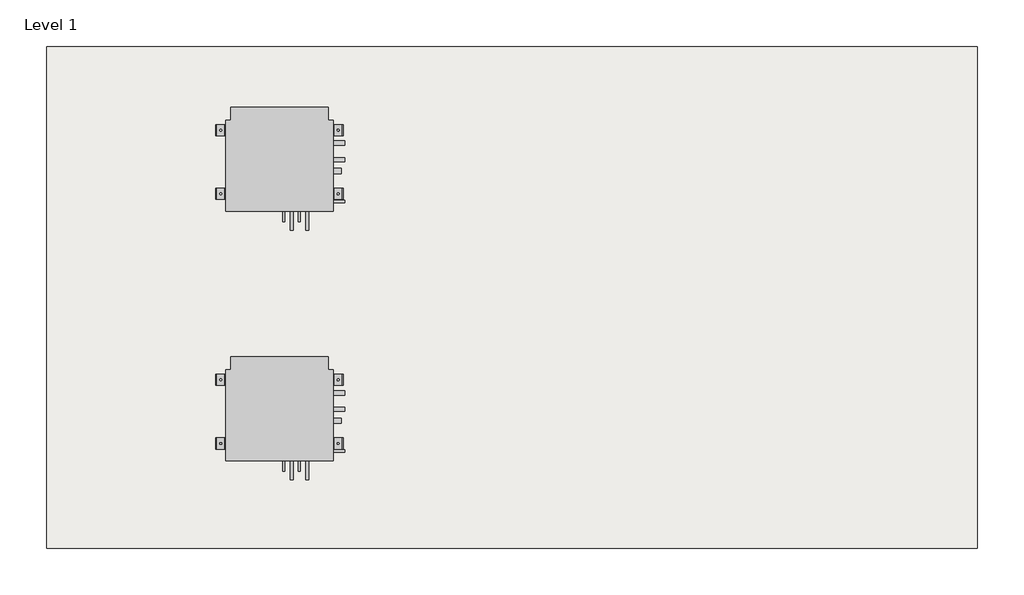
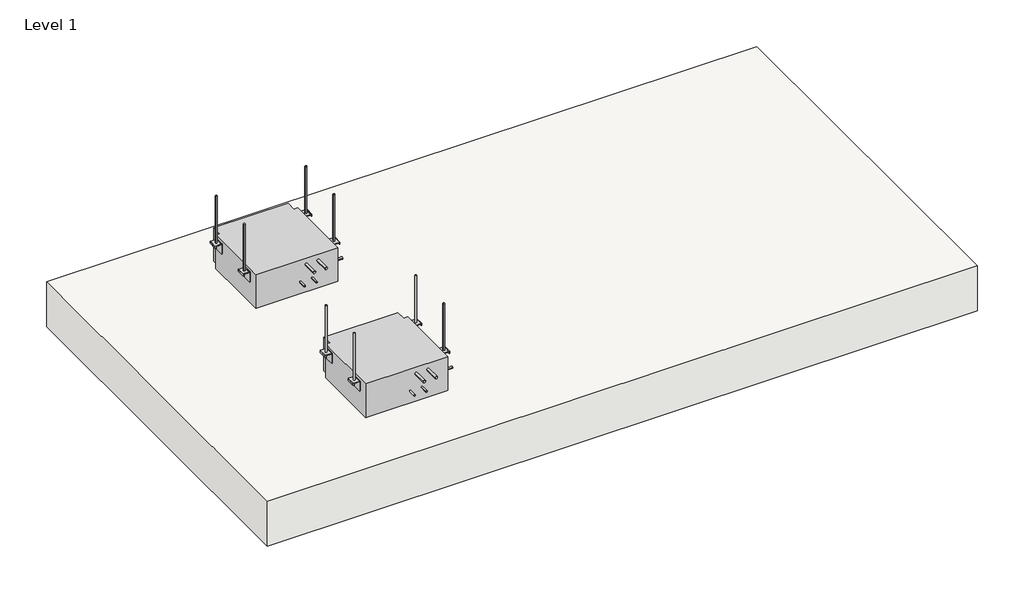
# One storey: 2 proxies, 1 slab.
"""IFC4 building model written with IfcOpenShell, lengths in millimetres."""

from ifc_helpers import new_model, si_unit, frame, origin, place, context, project, spatial, polyline, outline, extrude, transform, mapped, element, save
from components import mechanical_equipment_b168ff37

model = new_model("IFC4")

# Units and contexts
model_context = context("Model", 3, world=origin())
ifc_project = project(units=[si_unit("LENGTHUNIT", "METRE", prefix="MILLI")], contexts=[model_context])

# Site, building, storey
site = spatial("IfcSite", under=ifc_project)
building = spatial("IfcBuilding", under=site)
storey = spatial("IfcBuildingStorey", under=building, Name="Level 1", Elevation=0.0)

# Proxies
placement = place(None, origin())
mechanical_equipment_shape = mechanical_equipment_b168ff37(model_context)
element("IfcBuildingElementProxy", 1, Name="Lennox-VRF-Mode_Selection_Box-V8MSBB01_V8MSBB02-2P_Series : V8MSBB01", ObjectType="Lennox-VRF-Mode_Selection_Box-V8MSBB01_V8MSBB02-2P_Series : V8MSBB01", at=placement, inside=storey, context=model_context, shape_type="MappedRepresentation", body=[
    mapped(mechanical_equipment_shape, transform((2361.0811765, 1564.9378804, 0.0), x_axis=(1.0, 0.0, 0.0), y_axis=(0.0, 1.0, 0.0), z_axis=(0.0, 0.0, 1.0))),
])
element("IfcBuildingElementProxy", 2, Name="Lennox-VRF-Mode_Selection_Box-V8MSBB01_V8MSBB02-2P_Series : V8MSBB02", ObjectType="Lennox-VRF-Mode_Selection_Box-V8MSBB01_V8MSBB02-2P_Series : V8MSBB02", at=placement, inside=storey, context=model_context, shape_type="MappedRepresentation", body=[
    mapped(mechanical_equipment_shape, transform((2361.0811765, 345.7378804, 0.0), x_axis=(1.0, 0.0, 0.0), y_axis=(0.0, 1.0, 0.0), z_axis=(0.0, 0.0, 1.0))),
])

# Slab
element("IfcSlab", 3, ObjectType="Generic - 12\"", at=placement, inside=storey, context=model_context, shape_type="SweptSolid", body=[
    extrude(outline(polyline([(5770.1973575, 2115.5766815), (5770.1973575, -333.5794355), (1223.5973575, -333.5794355), (1223.5973575, 2115.5766815), (5770.1973575, 2115.5766815)])), frame((0.0, 0.0, -304.8), z_axis=(0.0, 0.0, 1.0), x_axis=(1.0, 0.0, 0.0)), (0.0, 0.0, 1.0), 304.8),
])

save(model, "model.ifc")
